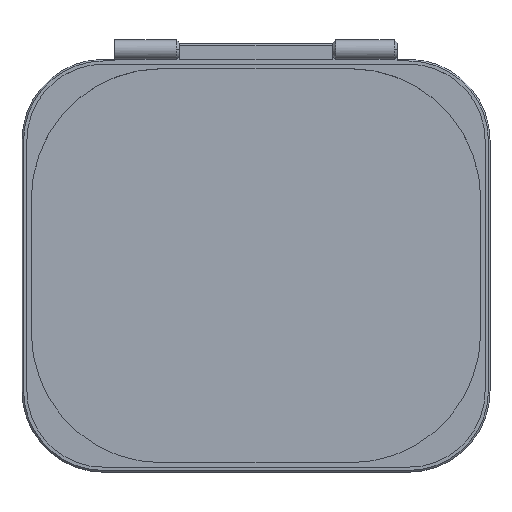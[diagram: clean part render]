
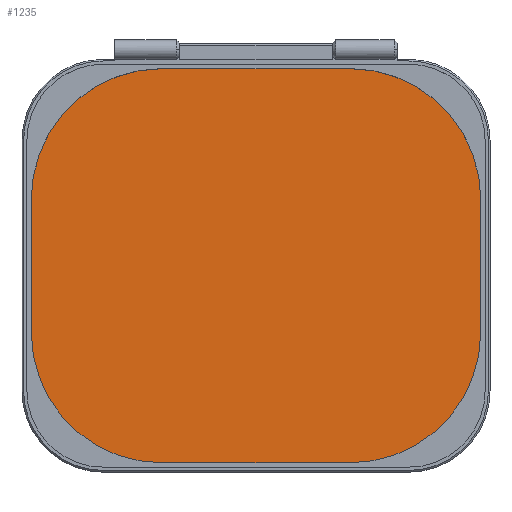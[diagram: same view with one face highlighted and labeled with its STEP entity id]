
A CAD part, top view. The second image highlights one B-rep face of the part: STEP entity #1235.
In plain terms, the highlighted planar face has unit normal (0, 0, 1).
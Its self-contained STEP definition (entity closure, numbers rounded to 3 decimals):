
#1160=CARTESIAN_POINT('',(0.,0.,-0.));
#1161=DIRECTION('',(0.,0.,1.));
#1162=DIRECTION('',(1.,0.,0.));
#1163=AXIS2_PLACEMENT_3D('',#1160,#1161,#1162);
#1164=PLANE('',#1163);
#1165=CARTESIAN_POINT('',(69.15,20.5,-0.));
#1166=VERTEX_POINT('',#1165);
#1167=CARTESIAN_POINT('',(69.15,-20.5,-0.));
#1168=VERTEX_POINT('',#1167);
#1169=CARTESIAN_POINT('',(69.15,20.5,-0.));
#1170=DIRECTION('',(0.,-1.,0.));
#1171=VECTOR('',#1170,41.);
#1172=LINE('',#1169,#1171);
#1173=EDGE_CURVE('',#1166,#1168,#1172,.T.);
#1174=ORIENTED_EDGE('',*,*,#1173,.F.);
#1175=CARTESIAN_POINT('',(29.,60.65,-0.));
#1176=VERTEX_POINT('',#1175);
#1177=CARTESIAN_POINT('',(29.,20.5,-0.));
#1178=DIRECTION('',(0.,0.,1.));
#1179=DIRECTION('',(1.,0.,-0.));
#1180=AXIS2_PLACEMENT_3D('',#1177,#1178,#1179);
#1181=CIRCLE('',#1180,40.15);
#1182=EDGE_CURVE('',#1166,#1176,#1181,.T.);
#1183=ORIENTED_EDGE('',*,*,#1182,.T.);
#1184=CARTESIAN_POINT('',(-29.,60.65,-0.));
#1185=VERTEX_POINT('',#1184);
#1186=CARTESIAN_POINT('',(-29.,60.65,-0.));
#1187=DIRECTION('',(1.,0.,-0.));
#1188=VECTOR('',#1187,58.);
#1189=LINE('',#1186,#1188);
#1190=EDGE_CURVE('',#1185,#1176,#1189,.T.);
#1191=ORIENTED_EDGE('',*,*,#1190,.F.);
#1192=CARTESIAN_POINT('',(-69.15,20.5,-0.));
#1193=VERTEX_POINT('',#1192);
#1194=CARTESIAN_POINT('',(-29.,20.5,-0.));
#1195=DIRECTION('',(0.,0.,1.));
#1196=DIRECTION('',(1.,0.,-0.));
#1197=AXIS2_PLACEMENT_3D('',#1194,#1195,#1196);
#1198=CIRCLE('',#1197,40.15);
#1199=EDGE_CURVE('',#1185,#1193,#1198,.T.);
#1200=ORIENTED_EDGE('',*,*,#1199,.T.);
#1201=CARTESIAN_POINT('',(-69.15,-20.5,-0.));
#1202=VERTEX_POINT('',#1201);
#1203=CARTESIAN_POINT('',(-69.15,-20.5,-0.));
#1204=DIRECTION('',(0.,1.,0.));
#1205=VECTOR('',#1204,41.);
#1206=LINE('',#1203,#1205);
#1207=EDGE_CURVE('',#1202,#1193,#1206,.T.);
#1208=ORIENTED_EDGE('',*,*,#1207,.F.);
#1209=CARTESIAN_POINT('',(-29.,-60.65,-0.));
#1210=VERTEX_POINT('',#1209);
#1211=CARTESIAN_POINT('',(-29.,-20.5,-0.));
#1212=DIRECTION('',(0.,0.,1.));
#1213=DIRECTION('',(1.,0.,-0.));
#1214=AXIS2_PLACEMENT_3D('',#1211,#1212,#1213);
#1215=CIRCLE('',#1214,40.15);
#1216=EDGE_CURVE('',#1202,#1210,#1215,.T.);
#1217=ORIENTED_EDGE('',*,*,#1216,.T.);
#1218=CARTESIAN_POINT('',(29.,-60.65,-0.));
#1219=VERTEX_POINT('',#1218);
#1220=CARTESIAN_POINT('',(29.,-60.65,-0.));
#1221=DIRECTION('',(-1.,0.,0.));
#1222=VECTOR('',#1221,58.);
#1223=LINE('',#1220,#1222);
#1224=EDGE_CURVE('',#1219,#1210,#1223,.T.);
#1225=ORIENTED_EDGE('',*,*,#1224,.F.);
#1226=CARTESIAN_POINT('',(29.,-20.5,-0.));
#1227=DIRECTION('',(0.,0.,1.));
#1228=DIRECTION('',(1.,0.,-0.));
#1229=AXIS2_PLACEMENT_3D('',#1226,#1227,#1228);
#1230=CIRCLE('',#1229,40.15);
#1231=EDGE_CURVE('',#1219,#1168,#1230,.T.);
#1232=ORIENTED_EDGE('',*,*,#1231,.T.);
#1233=EDGE_LOOP('',(#1174,#1183,#1191,#1200,#1208,#1217,#1225,#1232));
#1234=FACE_BOUND('',#1233,.T.);
#1235=ADVANCED_FACE('',(#1234),#1164,.T.);
